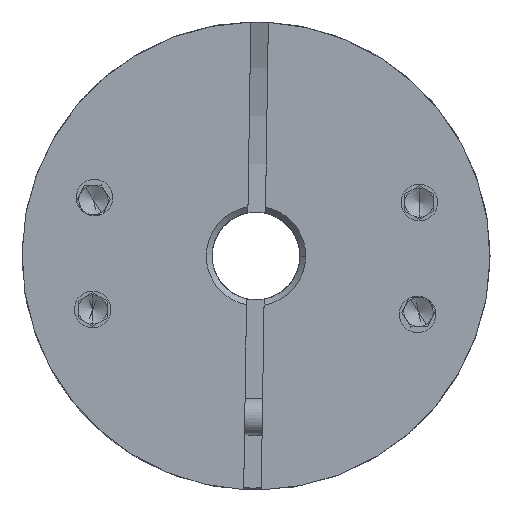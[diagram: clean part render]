
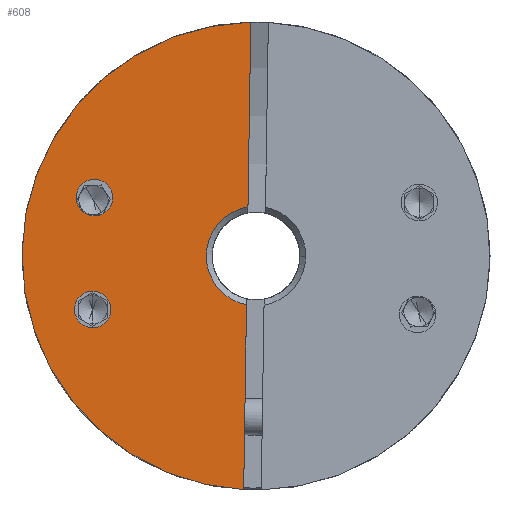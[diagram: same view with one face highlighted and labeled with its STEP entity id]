
A CAD part, front view. The second image highlights one B-rep face of the part: STEP entity #608.
In plain terms, the highlighted planar face has unit normal (0, -1, 0).
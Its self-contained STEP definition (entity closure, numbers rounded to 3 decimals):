
#590 = ORIENTED_EDGE ( 'NONE', *, *, #7914, .T. ) ;
#608 = ADVANCED_FACE ( 'NONE', ( #15741, #9562, #13978 ), #14548, .T. ) ;
#730 = EDGE_CURVE ( 'NONE', #6973, #8444, #7484, .T. ) ;
#1275 = ORIENTED_EDGE ( 'NONE', *, *, #10450, .T. ) ;
#2199 = CARTESIAN_POINT ( 'NONE',  ( -71.479, -19.411, 4.013 ) ) ;
#2551 = CARTESIAN_POINT ( 'NONE',  ( -59.727, -19.411, 3.355 ) ) ;
#2623 = CIRCLE ( 'NONE', #20972, 1.25 ) ;
#2682 = ORIENTED_EDGE ( 'NONE', *, *, #6653, .T. ) ;
#2701 = EDGE_CURVE ( 'NONE', #5447, #4887, #7105, .T. ) ;
#2800 = CARTESIAN_POINT ( 'NONE',  ( -59.178, -19.411, 0. ) ) ;
#3333 = DIRECTION ( 'NONE',  ( 0., 1., 0. ) ) ;
#3395 = CARTESIAN_POINT ( 'NONE',  ( -59.178, -19.411, 0. ) ) ;
#3832 = VECTOR ( 'NONE', #6256, 1000. ) ;
#4003 = DIRECTION ( 'NONE',  ( 1., 0., -0.015 ) ) ;
#4503 = CARTESIAN_POINT ( 'NONE',  ( -59.178, -19.411, 0. ) ) ;
#4644 = DIRECTION ( 'NONE',  ( 0., 1., 0. ) ) ;
#4887 = VERTEX_POINT ( 'NONE', #14603 ) ;
#5343 = EDGE_CURVE ( 'NONE', #10912, #8444, #12871, .T. ) ;
#5441 = DIRECTION ( 'NONE',  ( 1., 0., -0.015 ) ) ;
#5447 = VERTEX_POINT ( 'NONE', #14881 ) ;
#6046 = VERTEX_POINT ( 'NONE', #19660 ) ;
#6256 = DIRECTION ( 'NONE',  ( -0.015, 0., -1. ) ) ;
#6519 = CARTESIAN_POINT ( 'NONE',  ( -59.535, -19.411, 15.996 ) ) ;
#6653 = EDGE_CURVE ( 'NONE', #7895, #19246, #2623, .T. ) ;
#6714 = ORIENTED_EDGE ( 'NONE', *, *, #17129, .T. ) ;
#6857 = CIRCLE ( 'NONE', #22713, 16. ) ;
#6970 = DIRECTION ( 'NONE',  ( 0., -1., 0. ) ) ;
#6973 = VERTEX_POINT ( 'NONE', #18982 ) ;
#7095 = DIRECTION ( 'NONE',  ( 1., 0., -0.015 ) ) ;
#7105 = CIRCLE ( 'NONE', #9176, 1.25 ) ;
#7484 = CIRCLE ( 'NONE', #8811, 3.4 ) ;
#7895 = VERTEX_POINT ( 'NONE', #2199 ) ;
#7914 = EDGE_CURVE ( 'NONE', #19246, #7895, #21794, .T. ) ;
#8444 = VERTEX_POINT ( 'NONE', #2551 ) ;
#8729 = EDGE_LOOP ( 'NONE', ( #22793, #1275 ) ) ;
#8811 = AXIS2_PLACEMENT_3D ( 'NONE', #4503, #4644, #15925 ) ;
#8823 = EDGE_LOOP ( 'NONE', ( #23096, #23081, #17670, #6714, #24170 ) ) ;
#9145 = AXIS2_PLACEMENT_3D ( 'NONE', #3395, #18316, #7095 ) ;
#9176 = AXIS2_PLACEMENT_3D ( 'NONE', #15163, #9340, #4003 ) ;
#9340 = DIRECTION ( 'NONE',  ( 0., 1., 0. ) ) ;
#9562 = FACE_BOUND ( 'NONE', #23592, .T. ) ;
#9610 = CARTESIAN_POINT ( 'NONE',  ( -59.687, -19.411, 6.008 ) ) ;
#10450 = EDGE_CURVE ( 'NONE', #4887, #5447, #18520, .T. ) ;
#10853 = VERTEX_POINT ( 'NONE', #19769 ) ;
#10912 = VERTEX_POINT ( 'NONE', #6519 ) ;
#11488 = DIRECTION ( 'NONE',  ( 1., 0., -0.015 ) ) ;
#12474 = DIRECTION ( 'NONE',  ( 1., 0., -0.015 ) ) ;
#12871 = LINE ( 'NONE', #17977, #17853 ) ;
#13287 = EDGE_CURVE ( 'NONE', #6973, #6046, #23093, .T. ) ;
#13978 = FACE_BOUND ( 'NONE', #8729, .T. ) ;
#14548 = PLANE ( 'NONE',  #9145 ) ;
#14603 = CARTESIAN_POINT ( 'NONE',  ( -69.095, -19.411, -3.675 ) ) ;
#14881 = CARTESIAN_POINT ( 'NONE',  ( -71.595, -19.411, -3.637 ) ) ;
#15163 = CARTESIAN_POINT ( 'NONE',  ( -70.345, -19.411, -3.656 ) ) ;
#15696 = DIRECTION ( 'NONE',  ( 0., -1., 0. ) ) ;
#15741 = FACE_OUTER_BOUND ( 'NONE', #8823, .T. ) ;
#15750 = DIRECTION ( 'NONE',  ( 1., 0., -0.015 ) ) ;
#15786 = EDGE_CURVE ( 'NONE', #10853, #6046, #6857, .T. ) ;
#15925 = DIRECTION ( 'NONE',  ( 1., 0., -0.015 ) ) ;
#17129 = EDGE_CURVE ( 'NONE', #10912, #10853, #17970, .T. ) ;
#17670 = ORIENTED_EDGE ( 'NONE', *, *, #5343, .F. ) ;
#17747 = AXIS2_PLACEMENT_3D ( 'NONE', #23881, #3333, #5441 ) ;
#17853 = VECTOR ( 'NONE', #23685, 1000. ) ;
#17970 = CIRCLE ( 'NONE', #22904, 16. ) ;
#17977 = CARTESIAN_POINT ( 'NONE',  ( -59.687, -19.411, 6.008 ) ) ;
#18206 = CARTESIAN_POINT ( 'NONE',  ( -59.178, -19.411, 0. ) ) ;
#18316 = DIRECTION ( 'NONE',  ( 0., -1., 0. ) ) ;
#18520 = CIRCLE ( 'NONE', #17747, 1.25 ) ;
#18665 = CARTESIAN_POINT ( 'NONE',  ( -70.229, -19.411, 3.994 ) ) ;
#18982 = CARTESIAN_POINT ( 'NONE',  ( -59.829, -19.411, -3.337 ) ) ;
#19246 = VERTEX_POINT ( 'NONE', #20024 ) ;
#19586 = DIRECTION ( 'NONE',  ( 1., 0., -0.015 ) ) ;
#19660 = CARTESIAN_POINT ( 'NONE',  ( -60.021, -19.411, -15.978 ) ) ;
#19769 = CARTESIAN_POINT ( 'NONE',  ( -75.176, -19.411, 0.243 ) ) ;
#20024 = CARTESIAN_POINT ( 'NONE',  ( -68.979, -19.411, 3.975 ) ) ;
#20972 = AXIS2_PLACEMENT_3D ( 'NONE', #21294, #23759, #15750 ) ;
#21294 = CARTESIAN_POINT ( 'NONE',  ( -70.229, -19.411, 3.994 ) ) ;
#21794 = CIRCLE ( 'NONE', #24125, 1.25 ) ;
#22419 = DIRECTION ( 'NONE',  ( 0., 1., 0. ) ) ;
#22713 = AXIS2_PLACEMENT_3D ( 'NONE', #18206, #6970, #12474 ) ;
#22793 = ORIENTED_EDGE ( 'NONE', *, *, #2701, .T. ) ;
#22904 = AXIS2_PLACEMENT_3D ( 'NONE', #2800, #15696, #19586 ) ;
#23081 = ORIENTED_EDGE ( 'NONE', *, *, #730, .T. ) ;
#23093 = LINE ( 'NONE', #9610, #3832 ) ;
#23096 = ORIENTED_EDGE ( 'NONE', *, *, #13287, .F. ) ;
#23592 = EDGE_LOOP ( 'NONE', ( #2682, #590 ) ) ;
#23685 = DIRECTION ( 'NONE',  ( -0.015, 0., -1. ) ) ;
#23759 = DIRECTION ( 'NONE',  ( 0., 1., 0. ) ) ;
#23881 = CARTESIAN_POINT ( 'NONE',  ( -70.345, -19.411, -3.656 ) ) ;
#24125 = AXIS2_PLACEMENT_3D ( 'NONE', #18665, #22419, #11488 ) ;
#24170 = ORIENTED_EDGE ( 'NONE', *, *, #15786, .T. ) ;
